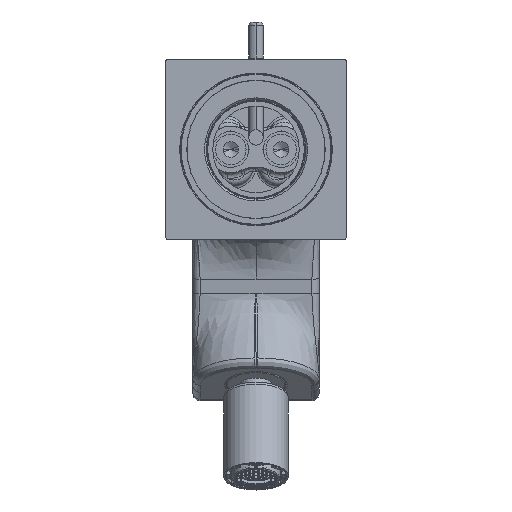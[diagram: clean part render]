
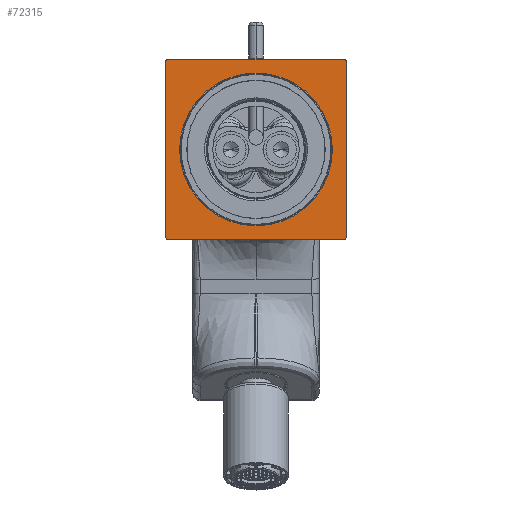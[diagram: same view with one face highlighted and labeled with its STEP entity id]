
A CAD part, front view. The second image highlights one B-rep face of the part: STEP entity #72315.
In plain terms, the highlighted planar face has unit normal (0, -1, 0).
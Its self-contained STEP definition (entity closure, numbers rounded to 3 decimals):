
#19509=CARTESIAN_POINT('',(-24.5,-3.5,-24.5));
#19510=DIRECTION('',(0.,-1.,0.));
#19511=DIRECTION('',(-1.,0.,0.));
#19512=AXIS2_PLACEMENT_3D('',#19509,#19510,#19511);
#19514=DIRECTION('',(0.,0.,1.));
#19515=VECTOR('',#19514,49.);
#19516=CARTESIAN_POINT('',(-25.,-3.5,-24.5));
#19517=LINE('',#19516,#19515);
#19518=CARTESIAN_POINT('',(-24.5,-3.5,24.5));
#19519=DIRECTION('',(0.,-1.,0.));
#19520=DIRECTION('',(0.,0.,1.));
#19521=AXIS2_PLACEMENT_3D('',#19518,#19519,#19520);
#19523=DIRECTION('',(1.,0.,0.));
#19524=VECTOR('',#19523,49.);
#19525=CARTESIAN_POINT('',(-24.5,-3.5,25.));
#19526=LINE('',#19525,#19524);
#19527=CARTESIAN_POINT('',(24.5,-3.5,24.5));
#19528=DIRECTION('',(0.,-1.,0.));
#19529=DIRECTION('',(1.,0.,0.));
#19530=AXIS2_PLACEMENT_3D('',#19527,#19528,#19529);
#19532=DIRECTION('',(0.,0.,-1.));
#19533=VECTOR('',#19532,49.);
#19534=CARTESIAN_POINT('',(25.,-3.5,24.5));
#19535=LINE('',#19534,#19533);
#19536=CARTESIAN_POINT('',(24.5,-3.5,-24.5));
#19537=DIRECTION('',(0.,-1.,0.));
#19538=DIRECTION('',(0.,0.,-1.));
#19539=AXIS2_PLACEMENT_3D('',#19536,#19537,#19538);
#19541=DIRECTION('',(-1.,0.,0.));
#19542=VECTOR('',#19541,49.);
#19543=CARTESIAN_POINT('',(24.5,-3.5,-25.));
#19544=LINE('',#19543,#19542);
#19545=CARTESIAN_POINT('',(0.,-3.5,0.));
#19546=DIRECTION('',(0.,1.,0.));
#19547=DIRECTION('',(0.,0.,-1.));
#19548=AXIS2_PLACEMENT_3D('',#19545,#19546,#19547);
#19550=CARTESIAN_POINT('',(0.,-3.5,0.));
#19551=DIRECTION('',(0.,1.,0.));
#19552=DIRECTION('',(0.,0.,1.));
#19553=AXIS2_PLACEMENT_3D('',#19550,#19551,#19552);
#52230=CARTESIAN_POINT('',(0.,-3.5,-21.2));
#52232=VERTEX_POINT('',#52230);
#52234=CARTESIAN_POINT('',(0.,-3.5,21.2));
#52236=VERTEX_POINT('',#52234);
#52262=CARTESIAN_POINT('',(-25.,-3.5,-24.5));
#52263=CARTESIAN_POINT('',(-24.5,-3.5,-25.));
#52264=VERTEX_POINT('',#52262);
#52265=VERTEX_POINT('',#52263);
#52266=CARTESIAN_POINT('',(24.5,-3.5,-25.));
#52267=CARTESIAN_POINT('',(25.,-3.5,-24.5));
#52268=VERTEX_POINT('',#52266);
#52269=VERTEX_POINT('',#52267);
#52270=CARTESIAN_POINT('',(25.,-3.5,24.5));
#52271=CARTESIAN_POINT('',(24.5,-3.5,25.));
#52272=VERTEX_POINT('',#52270);
#52273=VERTEX_POINT('',#52271);
#52274=CARTESIAN_POINT('',(-24.5,-3.5,25.));
#52275=CARTESIAN_POINT('',(-25.,-3.5,24.5));
#52276=VERTEX_POINT('',#52274);
#52277=VERTEX_POINT('',#52275);
#72294=CARTESIAN_POINT('',(0.,-3.5,0.));
#72295=DIRECTION('',(0.,1.,0.));
#72296=DIRECTION('',(0.,0.,-1.));
#72297=AXIS2_PLACEMENT_3D('',#72294,#72295,#72296);
#72298=PLANE('',#72297);
#72299=ORIENTED_EDGE('',*,*,#72221,.F.);
#72300=ORIENTED_EDGE('',*,*,#72236,.T.);
#72301=ORIENTED_EDGE('',*,*,#72275,.F.);
#72302=ORIENTED_EDGE('',*,*,#72288,.T.);
#72303=ORIENTED_EDGE('',*,*,#72110,.F.);
#72304=ORIENTED_EDGE('',*,*,#72126,.T.);
#72305=ORIENTED_EDGE('',*,*,#72166,.F.);
#72306=ORIENTED_EDGE('',*,*,#72181,.T.);
#72307=EDGE_LOOP('',(#72299,#72300,#72301,#72302,#72303,#72304,#72305,#72306));
#72308=FACE_OUTER_BOUND('',#72307,.F.);
#72310=ORIENTED_EDGE('',*,*,#72309,.F.);
#72312=ORIENTED_EDGE('',*,*,#72311,.F.);
#72313=EDGE_LOOP('',(#72310,#72312));
#72314=FACE_BOUND('',#72313,.F.);
#72315=ADVANCED_FACE('',(#72308,#72314),#72298,.F.);
#19513=CIRCLE('',#19512,0.5);
#19522=CIRCLE('',#19521,0.5);
#19531=CIRCLE('',#19530,0.5);
#19540=CIRCLE('',#19539,0.5);
#19549=CIRCLE('',#19548,21.2);
#19554=CIRCLE('',#19553,21.2);
#72110=EDGE_CURVE('',#52272,#52273,#19531,.T.);
#72126=EDGE_CURVE('',#52272,#52269,#19535,.T.);
#72166=EDGE_CURVE('',#52268,#52269,#19540,.T.);
#72181=EDGE_CURVE('',#52268,#52265,#19544,.T.);
#72221=EDGE_CURVE('',#52264,#52265,#19513,.T.);
#72236=EDGE_CURVE('',#52264,#52277,#19517,.T.);
#72275=EDGE_CURVE('',#52276,#52277,#19522,.T.);
#72288=EDGE_CURVE('',#52276,#52273,#19526,.T.);
#72309=EDGE_CURVE('',#52232,#52236,#19549,.T.);
#72311=EDGE_CURVE('',#52236,#52232,#19554,.T.);
